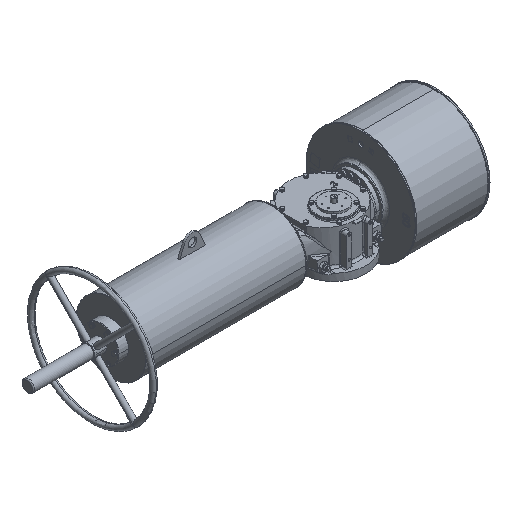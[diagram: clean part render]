
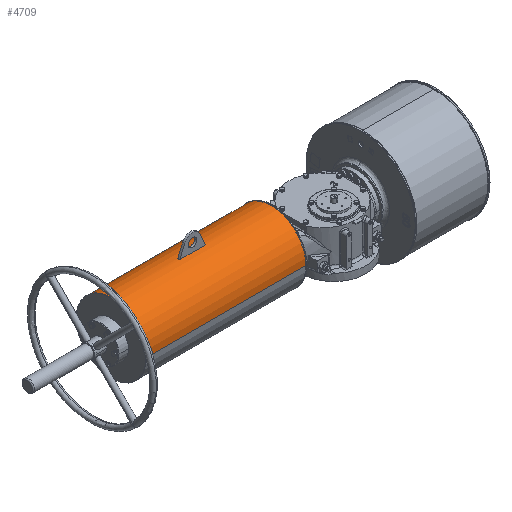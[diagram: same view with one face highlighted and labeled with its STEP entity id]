
A CAD part, isometric view. The second image highlights one B-rep face of the part: STEP entity #4709.
In plain terms, the highlighted cylindrical face has radius 162.5 mm (diameter 325 mm), a partial arc.
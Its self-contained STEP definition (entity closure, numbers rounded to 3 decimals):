
#363 = DIRECTION ( 'NONE',  ( -1., 0., 0. ) ) ;
#1721 = ORIENTED_EDGE ( 'NONE', *, *, #84730, .T. ) ;
#3483 = AXIS2_PLACEMENT_3D ( 'NONE', #39056, #73050, #13815 ) ;
#3822 = CARTESIAN_POINT ( 'NONE',  ( -519.5, 35.5, 74.5 ) ) ;
#4131 = CARTESIAN_POINT ( 'NONE',  ( -205., 198., 74.5 ) ) ;
#4709 = ADVANCED_FACE ( 'NONE', ( #52436, #74410 ), #81086, .T. ) ;
#5153 = EDGE_CURVE ( 'NONE', #43489, #77428, #52659, .T. ) ;
#6371 = CARTESIAN_POINT ( 'NONE',  ( -954., -127., 74.5 ) ) ;
#6808 = VECTOR ( 'NONE', #363, 1000. ) ;
#7651 = CARTESIAN_POINT ( 'NONE',  ( -639.5, 40.5, 236.923 ) ) ;
#8303 = CARTESIAN_POINT ( 'NONE',  ( -208., 198., 74.5 ) ) ;
#11695 = DIRECTION ( 'NONE',  ( 1., 0., 0. ) ) ;
#12651 = VERTEX_POINT ( 'NONE', #6371 ) ;
#13815 = DIRECTION ( 'NONE',  ( 0., -1., 0. ) ) ;
#13884 = DIRECTION ( 'NONE',  ( 0., -1., 0. ) ) ;
#13960 = CIRCLE ( 'NONE', #29532, 162.5 ) ;
#14319 = DIRECTION ( 'NONE',  ( -1., 0., 0. ) ) ;
#15716 = VECTOR ( 'NONE', #29619, 1000. ) ;
#15780 = DIRECTION ( 'NONE',  ( 1., 0., 0. ) ) ;
#15782 = DIRECTION ( 'NONE',  ( 1., 0., 0. ) ) ;
#17420 = VERTEX_POINT ( 'NONE', #4131 ) ;
#20199 = ORIENTED_EDGE ( 'NONE', *, *, #52114, .T. ) ;
#20945 = CARTESIAN_POINT ( 'NONE',  ( -208., 40.5, 236.923 ) ) ;
#22816 = CARTESIAN_POINT ( 'NONE',  ( -519.5, 35.5, 74.5 ) ) ;
#23076 = CIRCLE ( 'NONE', #65423, 162.5 ) ;
#23374 = AXIS2_PLACEMENT_3D ( 'NONE', #3822, #15782, #30747 ) ;
#24805 = CARTESIAN_POINT ( 'NONE',  ( -519.5, 30.5, 236.923 ) ) ;
#26366 = ORIENTED_EDGE ( 'NONE', *, *, #60691, .T. ) ;
#27016 = CARTESIAN_POINT ( 'NONE',  ( -205., -127., 74.5 ) ) ;
#29532 = AXIS2_PLACEMENT_3D ( 'NONE', #81116, #14319, #67805 ) ;
#29619 = DIRECTION ( 'NONE',  ( -1., 0., 0. ) ) ;
#29899 = DIRECTION ( 'NONE',  ( -1., 0., 0. ) ) ;
#30560 = EDGE_CURVE ( 'NONE', #49567, #12651, #78893, .T. ) ;
#30747 = DIRECTION ( 'NONE',  ( 0., -1., 0. ) ) ;
#30905 = CARTESIAN_POINT ( 'NONE',  ( -954., 198., 74.5 ) ) ;
#31313 = VECTOR ( 'NONE', #72980, 1000. ) ;
#32437 = VECTOR ( 'NONE', #58981, 1000. ) ;
#34854 = EDGE_CURVE ( 'NONE', #44636, #43489, #43976, .T. ) ;
#35599 = VERTEX_POINT ( 'NONE', #61980 ) ;
#35695 = LINE ( 'NONE', #8303, #6808 ) ;
#38768 = DIRECTION ( 'NONE',  ( -1., 0., 0. ) ) ;
#39056 = CARTESIAN_POINT ( 'NONE',  ( -205., 35.5, 74.5 ) ) ;
#40619 = ORIENTED_EDGE ( 'NONE', *, *, #34854, .T. ) ;
#43489 = VERTEX_POINT ( 'NONE', #24805 ) ;
#43976 = CIRCLE ( 'NONE', #66558, 162.5 ) ;
#44636 = VERTEX_POINT ( 'NONE', #60461 ) ;
#45289 = CARTESIAN_POINT ( 'NONE',  ( -954., 35.5, 74.5 ) ) ;
#45828 = CARTESIAN_POINT ( 'NONE',  ( -208., 35.5, 74.5 ) ) ;
#46617 = CARTESIAN_POINT ( 'NONE',  ( -208., -127., 74.5 ) ) ;
#46921 = ORIENTED_EDGE ( 'NONE', *, *, #55488, .T. ) ;
#47161 = EDGE_CURVE ( 'NONE', #35599, #56078, #23076, .T. ) ;
#49567 = VERTEX_POINT ( 'NONE', #27016 ) ;
#52114 = EDGE_CURVE ( 'NONE', #49567, #17420, #72605, .T. ) ;
#52436 = FACE_BOUND ( 'NONE', #80196, .T. ) ;
#52659 = LINE ( 'NONE', #86280, #31313 ) ;
#55241 = AXIS2_PLACEMENT_3D ( 'NONE', #45828, #38768, #86064 ) ;
#55488 = EDGE_CURVE ( 'NONE', #66931, #44636, #84120, .T. ) ;
#56078 = VERTEX_POINT ( 'NONE', #7651 ) ;
#56341 = ORIENTED_EDGE ( 'NONE', *, *, #47161, .T. ) ;
#56366 = CARTESIAN_POINT ( 'NONE',  ( -639.5, 30.5, 236.923 ) ) ;
#58981 = DIRECTION ( 'NONE',  ( -1., 0., 0. ) ) ;
#60461 = CARTESIAN_POINT ( 'NONE',  ( -519.5, 35.5, 237. ) ) ;
#60581 = CIRCLE ( 'NONE', #83224, 162.5 ) ;
#60691 = EDGE_CURVE ( 'NONE', #17420, #70607, #35695, .T. ) ;
#61980 = CARTESIAN_POINT ( 'NONE',  ( -639.5, 35.5, 237. ) ) ;
#62894 = ORIENTED_EDGE ( 'NONE', *, *, #77651, .F. ) ;
#63853 = ORIENTED_EDGE ( 'NONE', *, *, #84602, .T. ) ;
#64794 = CARTESIAN_POINT ( 'NONE',  ( -639.5, 35.5, 74.5 ) ) ;
#65423 = AXIS2_PLACEMENT_3D ( 'NONE', #64794, #29899, #71859 ) ;
#66558 = AXIS2_PLACEMENT_3D ( 'NONE', #22816, #15780, #83421 ) ;
#66931 = VERTEX_POINT ( 'NONE', #74535 ) ;
#67805 = DIRECTION ( 'NONE',  ( 0., 1., 0. ) ) ;
#69424 = EDGE_LOOP ( 'NONE', ( #20199, #26366, #63853, #73828 ) ) ;
#69864 = LINE ( 'NONE', #20945, #15716 ) ;
#70607 = VERTEX_POINT ( 'NONE', #30905 ) ;
#71859 = DIRECTION ( 'NONE',  ( 0., 1., 0. ) ) ;
#72605 = CIRCLE ( 'NONE', #3483, 162.5 ) ;
#72980 = DIRECTION ( 'NONE',  ( -1., 0., 0. ) ) ;
#73050 = DIRECTION ( 'NONE',  ( -1., 0., 0. ) ) ;
#73828 = ORIENTED_EDGE ( 'NONE', *, *, #30560, .F. ) ;
#73875 = ORIENTED_EDGE ( 'NONE', *, *, #5153, .T. ) ;
#74410 = FACE_OUTER_BOUND ( 'NONE', #69424, .T. ) ;
#74535 = CARTESIAN_POINT ( 'NONE',  ( -519.5, 40.5, 236.923 ) ) ;
#77428 = VERTEX_POINT ( 'NONE', #56366 ) ;
#77651 = EDGE_CURVE ( 'NONE', #66931, #56078, #69864, .T. ) ;
#78893 = LINE ( 'NONE', #46617, #32437 ) ;
#80196 = EDGE_LOOP ( 'NONE', ( #62894, #46921, #40619, #73875, #1721, #56341 ) ) ;
#81086 = CYLINDRICAL_SURFACE ( 'NONE', #55241, 162.5 ) ;
#81116 = CARTESIAN_POINT ( 'NONE',  ( -639.5, 35.5, 74.5 ) ) ;
#83224 = AXIS2_PLACEMENT_3D ( 'NONE', #45289, #11695, #13884 ) ;
#83421 = DIRECTION ( 'NONE',  ( 0., -1., 0. ) ) ;
#84120 = CIRCLE ( 'NONE', #23374, 162.5 ) ;
#84602 = EDGE_CURVE ( 'NONE', #70607, #12651, #60581, .T. ) ;
#84730 = EDGE_CURVE ( 'NONE', #77428, #35599, #13960, .T. ) ;
#86064 = DIRECTION ( 'NONE',  ( 0., -1., 0. ) ) ;
#86280 = CARTESIAN_POINT ( 'NONE',  ( -208., 30.5, 236.923 ) ) ;
